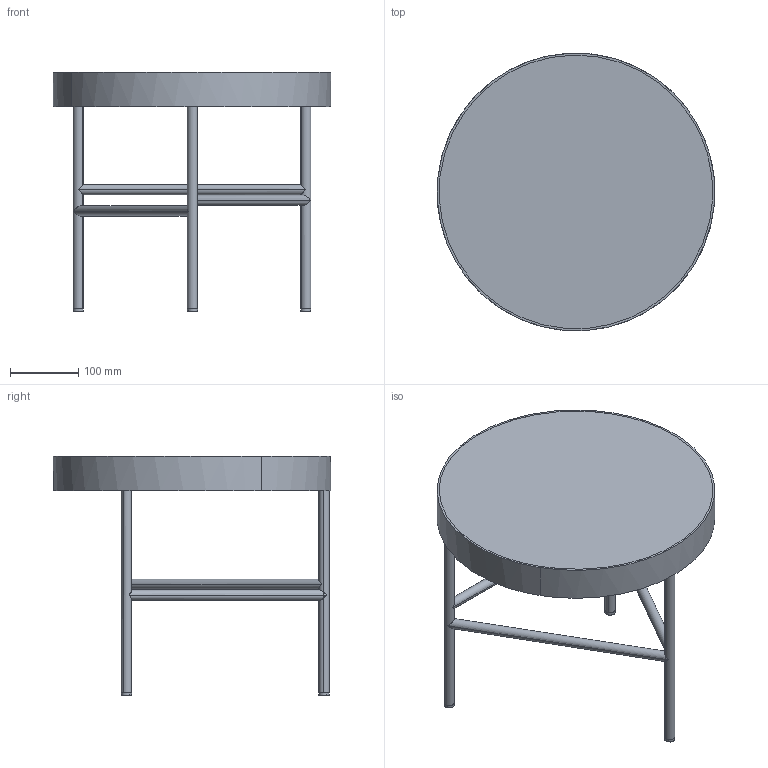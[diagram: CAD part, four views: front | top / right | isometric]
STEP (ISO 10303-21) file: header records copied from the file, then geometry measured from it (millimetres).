
FILE_DESCRIPTION(/* description */ (''),/* implementation_level */ '2;1');
FILE_NAME(/* name */ 'M96YH7~0',/* time_stamp */ '2018-04-03T16:29:33+02:00',/* author */ (''),/* organization */ (''),/* preprocessor_version */ 'ST-DEVELOPER v15',/* originating_system */ '',/* authorisation */ '');
FILE_SCHEMA (('AUTOMOTIVE_DESIGN'));
Length unit declared in the file: millimetre
Products named in the file (1): Document
Bounding box: 405.26 x 405.67 x 349.31 mm (x, y, z)
Volume: 3044163 mm3; surface area: 581255 mm2
Topology: 11 solids, 15 shells, 62 faces, 129 edges, 90 vertices
Faces by surface type: bspline 62
Entity records: 4109 total; most frequent: CARTESIAN_POINT 2547, ORIENTED_EDGE 234, PCURVE 234, DEFINITIONAL_REPRESENTATION 234, B_SPLINE_CURVE_WITH_KNOTS 222, SURFACE_CURVE 129, EDGE_CURVE 129, VERTEX_POINT 90
